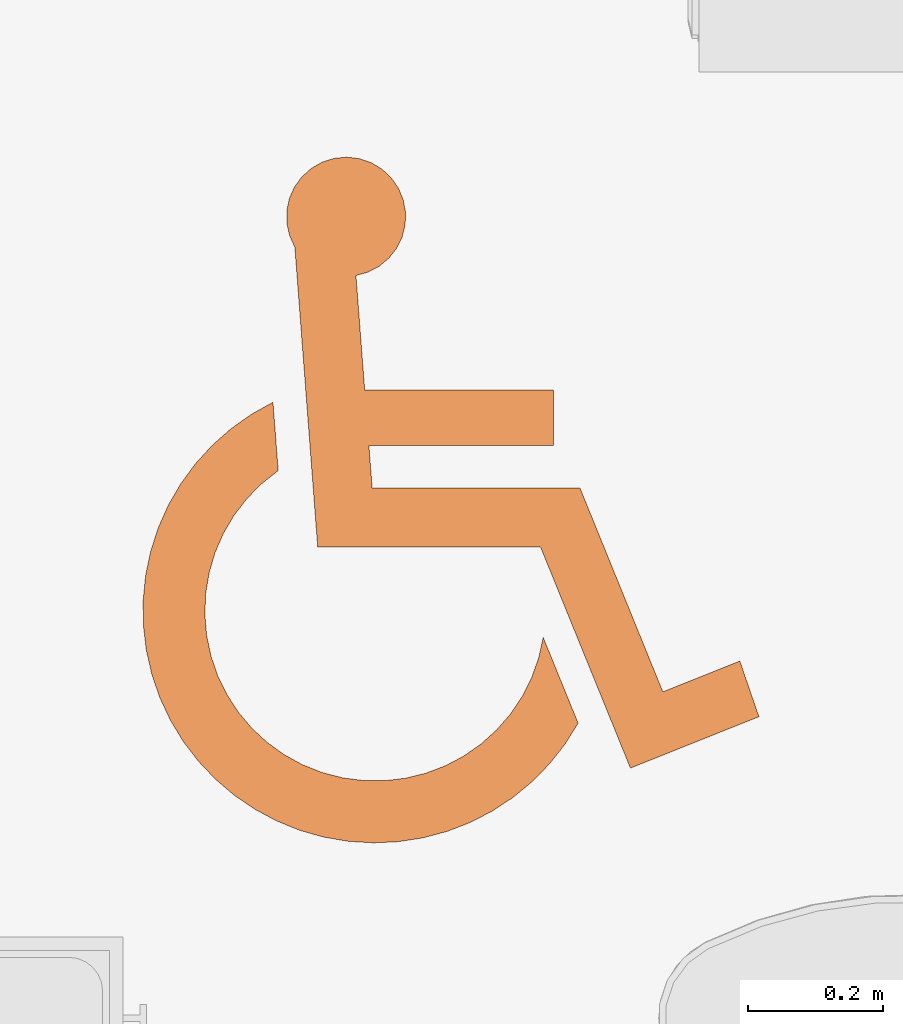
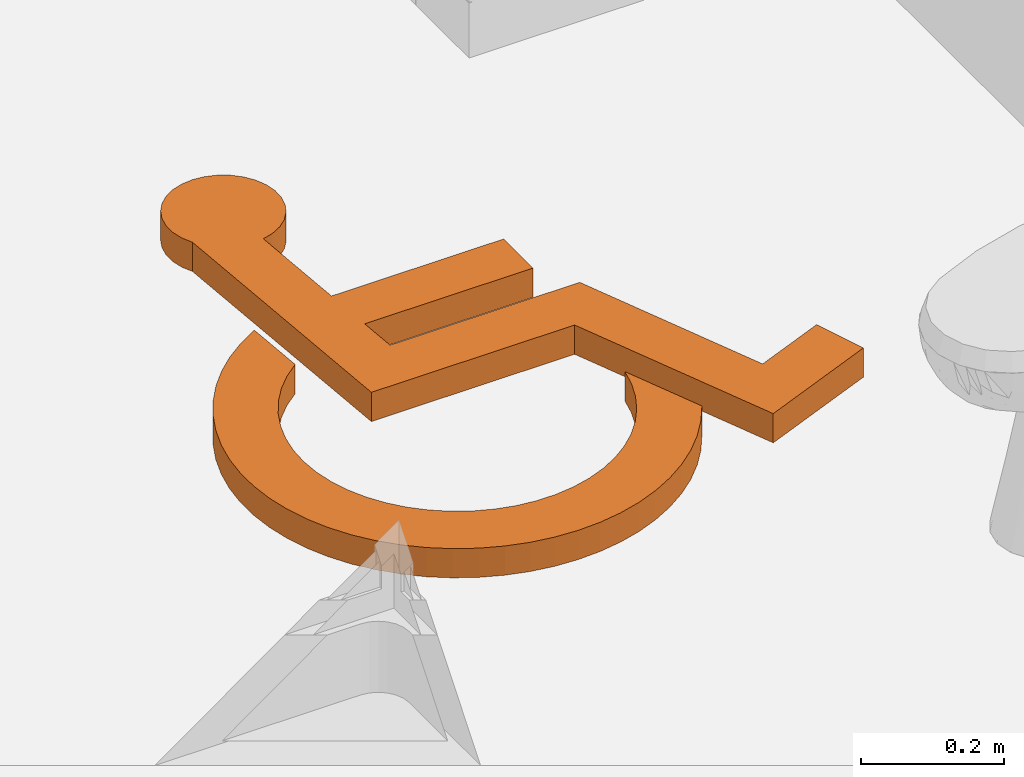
# One storey, part 42 of 44: 1 proxy.
"""IFC2X3 building model written with IfcOpenShell, lengths in millimetres."""

from ifc_helpers import new_model, entity, si_unit, converted_unit, direction, frame, frame_2d, origin, place, context, subcontext, project, spatial, polyline, circle_curve, parameter, trimmed, segment, composite_curve, outline, extrude, source, transform, mapped, material, type_object, type_shapes, element, save


model = new_model("IFC2X3")

# Units and contexts
model_context = context("Model", 3, precision=0.01, world=origin(), true_north=direction((0.0, 1.0)))
body_context = subcontext(model_context, "Body", "Model", "MODEL_VIEW")
ifc_project = project(units=[si_unit("LENGTHUNIT", "METRE", prefix="MILLI"), si_unit("AREAUNIT", "SQUARE_METRE"), si_unit("VOLUMEUNIT", "CUBIC_METRE"), converted_unit("PLANEANGLEUNIT", "DEGREE", entity("IfcPlaneAngleMeasure", 0.017453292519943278), si_unit("PLANEANGLEUNIT", "RADIAN"), dimensions=[0, 0, 0, 0, 0, 0, 0])], contexts=[model_context])

# Site, building, storey, space
site_placement = place(None, origin())
site = spatial("IfcSite", under=ifc_project, at=site_placement, Name="Default", CompositionType="ELEMENT")
building_placement = place(site_placement, origin())
building = spatial("IfcBuilding", under=site, at=building_placement, CompositionType="ELEMENT")
storey_placement = place(building_placement, frame((0.0, 0.0, 2681.0)))
storey = spatial("IfcBuildingStorey", under=building, at=storey_placement, Name="Et. 2", CompositionType="ELEMENT", Elevation=2681.0)
space_placement = place(storey_placement, origin())
space = spatial("IfcSpace", under=storey, at=space_placement, Name="203", CompositionType="ELEMENT", InteriorOrExteriorSpace="INTERNAL")

# Proxy
ifc_material = material(Name="<Unnamed>")
building_element_proxy_type = type_object("IfcBuildingElementProxyType", Name="HC-Sirkel:HC-Sirkel 1500", PredefinedType="NOTDEFINED", material=ifc_material)
shared_shape = source(origin(), body_context, "Body", "SweptSolid", [
    extrude(outline(composite_curve([segment(polyline([(73.08456968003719, 24.171348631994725), (425.99666421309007, 24.171348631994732)]), True, "CONTINUOUS"), segment(polyline([(425.99666421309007, 24.171348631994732), (427.1926952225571, 228.68994682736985)]), True, "CONTINUOUS"), segment(polyline([(427.1926952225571, 228.68994682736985), (340.35156526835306, 233.53866508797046)]), True, "CONTINUOUS"), segment(polyline([(340.35156526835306, 233.53866508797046), (339.63518552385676, 111.0393486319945)]), True, "CONTINUOUS"), segment(polyline([(339.6351855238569, 111.03934863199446), (14.63240316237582, 111.0393486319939)]), True, "CONTINUOUS"), segment(polyline([(14.63240316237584, 111.03934863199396), (-101.05350558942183, -173.4621822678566)]), True, "CONTINUOUS"), segment(polyline([(-101.05350558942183, -173.4621822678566), (-161.10905457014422, -154.21614490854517)]), True, "CONTINUOUS"), segment(polyline([(-161.10905457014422, -154.21614490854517), (-58.48199197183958, 98.17031024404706)]), True, "CONTINUOUS"), segment(polyline([(-58.48199197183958, 98.17031024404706), (-134.6802137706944, 129.15453906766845)]), True, "CONTINUOUS"), segment(polyline([(-134.6802137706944, 129.15453906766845), (-239.66899573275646, -129.0399940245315)]), True, "CONTINUOUS"), segment(polyline([(-239.66899573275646, -129.0399940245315), (-401.0728035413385, -77.3148201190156)]), True, "CONTINUOUS"), segment(trimmed(circle_curve(frame_2d((-487.01248088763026, -58.10761128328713), x_axis=(0.37667652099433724, 0.9263448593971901)), 88.05989446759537), [parameter(279.52961143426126)], [parameter(210.67771042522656)], True, "PARAMETER"), True, "CONTINUOUS"), segment(polyline([(-473.920796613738, -145.1889113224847), (-50.905721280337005, -280.7528031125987)]), True, "CONTINUOUS"), segment(polyline([(-50.905721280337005, -280.7528031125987), (73.08456968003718, 24.171348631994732)]), True, "CONTINUOUS")], self_intersect=False)), frame((126.0677393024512, 10.200709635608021, 0.0), z_axis=(0.0, 0.0, 1.0), x_axis=(0.3766765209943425, -0.9263448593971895, 0.0)), (0.0, 0.0, 1.0), 49.99999999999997),
    extrude(outline(composite_curve([segment(trimmed(circle_curve(frame_2d((-72.25049651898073, -69.30966368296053), x_axis=(-0.07600280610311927, 0.9971076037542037)), 251.58701275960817), [parameter(9.02057374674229)], [parameter(235.3157901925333)], True, "PARAMETER"), False, "CONTINUOUS"), segment(polyline([(-130.467335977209, 175.44904319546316), (-260.8342111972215, 217.2277929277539)]), True, "CONTINUOUS"), segment(trimmed(circle_curve(frame_2d((-72.25049651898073, -69.30966368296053), x_axis=(-0.07600280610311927, 0.9971076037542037)), 343.02701275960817), [parameter(28.991942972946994)], [parameter(243.9059842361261)], True, "PARAMETER"), True, "CONTINUOUS"), segment(polyline([(246.38915425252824, -196.3384180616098), (144.9123929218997, -196.33841806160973)]), True, "CONTINUOUS")], self_intersect=False)), frame((-4.764332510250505, -65.4156728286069, 0.0), z_axis=(0.0, 0.0, -1.0), x_axis=(-0.07600280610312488, 0.997107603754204, 0.0)), (0.0, 0.0, -1.0), 50.0),
])
type_shapes(building_element_proxy_type, [shared_shape])
proxy_placement = place(space_placement, frame((15032.009586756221, 13279.05871915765, 0.0)))
element("IfcBuildingElementProxy", 1, at=proxy_placement, inside=space, type_object=building_element_proxy_type, material=ifc_material, Name="HC-Sirkel:HC-Sirkel 1500", context=body_context, shape_type="MappedRepresentation", body=[
    mapped(shared_shape, transform((0.0, 0.0, 0.0), scale=1.0)),
])

save(model, "model.ifc")
